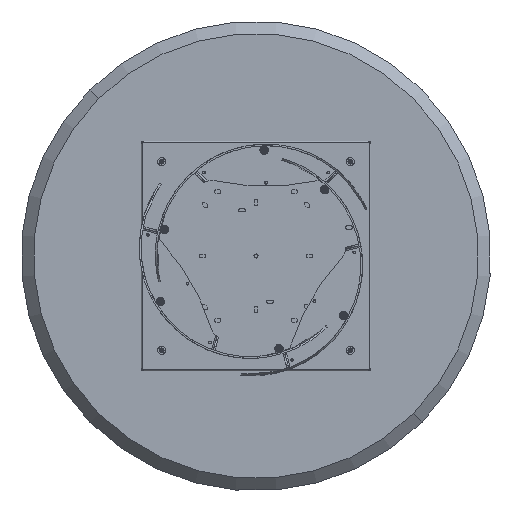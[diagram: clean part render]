
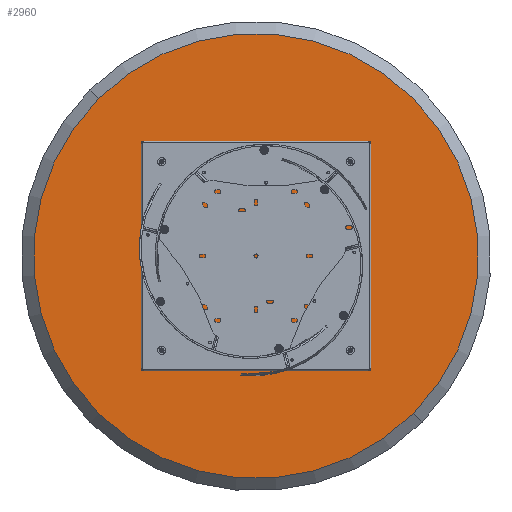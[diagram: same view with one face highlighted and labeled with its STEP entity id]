
A CAD part, front view. The second image highlights one B-rep face of the part: STEP entity #2960.
In plain terms, the highlighted planar face has unit normal (0, -1, 0).
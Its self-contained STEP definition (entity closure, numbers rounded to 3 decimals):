
#81 = ORIENTED_EDGE ( 'NONE', *, *, #8476, .F. ) ;
#471 = VERTEX_POINT ( 'NONE', #18359 ) ;
#804 = ORIENTED_EDGE ( 'NONE', *, *, #20310, .F. ) ;
#819 = EDGE_CURVE ( 'NONE', #11378, #7579, #4959, .T. ) ;
#846 = AXIS2_PLACEMENT_3D ( 'NONE', #11829, #4213, #2337 ) ;
#1141 = FACE_BOUND ( 'NONE', #19767, .T. ) ;
#1204 = AXIS2_PLACEMENT_3D ( 'NONE', #7470, #19912, #8953 ) ;
#1358 = CIRCLE ( 'NONE', #4705, 3.4 ) ;
#1394 = EDGE_LOOP ( 'NONE', ( #7569, #10085 ) ) ;
#1644 = DIRECTION ( 'NONE',  ( 0., 0., -1. ) ) ;
#2000 = DIRECTION ( 'NONE',  ( 0., 0., -1. ) ) ;
#2208 = VERTEX_POINT ( 'NONE', #3191 ) ;
#2211 = AXIS2_PLACEMENT_3D ( 'NONE', #5353, #11936, #3691 ) ;
#2256 = ORIENTED_EDGE ( 'NONE', *, *, #19443, .F. ) ;
#2337 = DIRECTION ( 'NONE',  ( 0., 0., -1. ) ) ;
#2388 = AXIS2_PLACEMENT_3D ( 'NONE', #9559, #15934, #1644 ) ;
#2414 = CIRCLE ( 'NONE', #5079, 3.4 ) ;
#2724 = EDGE_LOOP ( 'NONE', ( #2256, #804 ) ) ;
#2879 = CIRCLE ( 'NONE', #1204, 3.4 ) ;
#2960 = ADVANCED_FACE ( 'NONE', ( #10732, #1141, #9165, #14957, #10038 ), #13985, .T. ) ;
#3191 = CARTESIAN_POINT ( 'NONE',  ( 397.5, 0., -3.4 ) ) ;
#3406 = CARTESIAN_POINT ( 'NONE',  ( 397.5, 0., 3.4 ) ) ;
#3643 = VERTEX_POINT ( 'NONE', #12392 ) ;
#3691 = DIRECTION ( 'NONE',  ( 0., 0., -1. ) ) ;
#3838 = CIRCLE ( 'NONE', #15493, 663. ) ;
#3907 = CARTESIAN_POINT ( 'NONE',  ( -397.5, 0., 0. ) ) ;
#4213 = DIRECTION ( 'NONE',  ( 0., -1., 0. ) ) ;
#4261 = DIRECTION ( 'NONE',  ( 0., -1., 0. ) ) ;
#4673 = AXIS2_PLACEMENT_3D ( 'NONE', #18550, #4261, #16985 ) ;
#4705 = AXIS2_PLACEMENT_3D ( 'NONE', #20366, #17450, #7948 ) ;
#4959 = CIRCLE ( 'NONE', #12285, 663. ) ;
#5079 = AXIS2_PLACEMENT_3D ( 'NONE', #3907, #16641, #8696 ) ;
#5353 = CARTESIAN_POINT ( 'NONE',  ( 0., 0., 0. ) ) ;
#5796 = CARTESIAN_POINT ( 'NONE',  ( -397.5, 0., -3.4 ) ) ;
#6473 = CARTESIAN_POINT ( 'NONE',  ( 0., 0., 400.9 ) ) ;
#7226 = DIRECTION ( 'NONE',  ( 0., 0., -1. ) ) ;
#7470 = CARTESIAN_POINT ( 'NONE',  ( 397.5, 0., 0. ) ) ;
#7569 = ORIENTED_EDGE ( 'NONE', *, *, #10813, .F. ) ;
#7579 = VERTEX_POINT ( 'NONE', #16391 ) ;
#7948 = DIRECTION ( 'NONE',  ( 0., 0., -1. ) ) ;
#8229 = CARTESIAN_POINT ( 'NONE',  ( 0., 0., -394.1 ) ) ;
#8476 = EDGE_CURVE ( 'NONE', #11710, #3643, #15997, .T. ) ;
#8623 = ORIENTED_EDGE ( 'NONE', *, *, #819, .T. ) ;
#8696 = DIRECTION ( 'NONE',  ( 0., 0., -1. ) ) ;
#8794 = AXIS2_PLACEMENT_3D ( 'NONE', #16080, #16176, #2000 ) ;
#8798 = VERTEX_POINT ( 'NONE', #3406 ) ;
#8883 = VERTEX_POINT ( 'NONE', #5796 ) ;
#8898 = CARTESIAN_POINT ( 'NONE',  ( 0., 0., 0. ) ) ;
#8953 = DIRECTION ( 'NONE',  ( 0., 0., -1. ) ) ;
#9057 = AXIS2_PLACEMENT_3D ( 'NONE', #17273, #9225, #10689 ) ;
#9165 = FACE_BOUND ( 'NONE', #1394, .T. ) ;
#9225 = DIRECTION ( 'NONE',  ( 0., -1., 0. ) ) ;
#9460 = CIRCLE ( 'NONE', #8794, 3.4 ) ;
#9537 = EDGE_CURVE ( 'NONE', #3643, #11710, #1358, .T. ) ;
#9559 = CARTESIAN_POINT ( 'NONE',  ( -397.5, 0., 0. ) ) ;
#9671 = DIRECTION ( 'NONE',  ( 0., 0., -1. ) ) ;
#9705 = VERTEX_POINT ( 'NONE', #6473 ) ;
#10038 = FACE_BOUND ( 'NONE', #12334, .T. ) ;
#10085 = ORIENTED_EDGE ( 'NONE', *, *, #13079, .F. ) ;
#10246 = ORIENTED_EDGE ( 'NONE', *, *, #9537, .F. ) ;
#10311 = CARTESIAN_POINT ( 'NONE',  ( 0., 0., 394.1 ) ) ;
#10689 = DIRECTION ( 'NONE',  ( 0., 0., -1. ) ) ;
#10732 = FACE_OUTER_BOUND ( 'NONE', #13766, .T. ) ;
#10813 = EDGE_CURVE ( 'NONE', #8883, #471, #20370, .T. ) ;
#10963 = ORIENTED_EDGE ( 'NONE', *, *, #20348, .T. ) ;
#11024 = EDGE_CURVE ( 'NONE', #9705, #15663, #20398, .T. ) ;
#11093 = CARTESIAN_POINT ( 'NONE',  ( 0., 0., -663. ) ) ;
#11378 = VERTEX_POINT ( 'NONE', #11093 ) ;
#11710 = VERTEX_POINT ( 'NONE', #8229 ) ;
#11829 = CARTESIAN_POINT ( 'NONE',  ( 397.5, 0., 0. ) ) ;
#11936 = DIRECTION ( 'NONE',  ( 0., -1., 0. ) ) ;
#12285 = AXIS2_PLACEMENT_3D ( 'NONE', #19167, #19283, #9671 ) ;
#12334 = EDGE_LOOP ( 'NONE', ( #17253, #18571 ) ) ;
#12392 = CARTESIAN_POINT ( 'NONE',  ( 0., 0., -400.9 ) ) ;
#13079 = EDGE_CURVE ( 'NONE', #471, #8883, #2414, .T. ) ;
#13766 = EDGE_LOOP ( 'NONE', ( #10963, #8623 ) ) ;
#13985 = PLANE ( 'NONE',  #2211 ) ;
#14957 = FACE_BOUND ( 'NONE', #2724, .T. ) ;
#15239 = EDGE_CURVE ( 'NONE', #15663, #9705, #9460, .T. ) ;
#15270 = DIRECTION ( 'NONE',  ( 0., -1., 0. ) ) ;
#15493 = AXIS2_PLACEMENT_3D ( 'NONE', #8898, #15270, #7226 ) ;
#15663 = VERTEX_POINT ( 'NONE', #10311 ) ;
#15934 = DIRECTION ( 'NONE',  ( 0., -1., 0. ) ) ;
#15997 = CIRCLE ( 'NONE', #4673, 3.4 ) ;
#16080 = CARTESIAN_POINT ( 'NONE',  ( 0., 0., 397.5 ) ) ;
#16176 = DIRECTION ( 'NONE',  ( 0., -1., 0. ) ) ;
#16391 = CARTESIAN_POINT ( 'NONE',  ( 0., 0., 663. ) ) ;
#16641 = DIRECTION ( 'NONE',  ( 0., -1., 0. ) ) ;
#16985 = DIRECTION ( 'NONE',  ( 0., 0., -1. ) ) ;
#17253 = ORIENTED_EDGE ( 'NONE', *, *, #15239, .F. ) ;
#17273 = CARTESIAN_POINT ( 'NONE',  ( 0., 0., 397.5 ) ) ;
#17450 = DIRECTION ( 'NONE',  ( 0., -1., 0. ) ) ;
#17840 = CIRCLE ( 'NONE', #846, 3.4 ) ;
#18359 = CARTESIAN_POINT ( 'NONE',  ( -397.5, 0., 3.4 ) ) ;
#18550 = CARTESIAN_POINT ( 'NONE',  ( 0., 0., -397.5 ) ) ;
#18571 = ORIENTED_EDGE ( 'NONE', *, *, #11024, .F. ) ;
#19167 = CARTESIAN_POINT ( 'NONE',  ( 0., 0., 0. ) ) ;
#19283 = DIRECTION ( 'NONE',  ( 0., -1., 0. ) ) ;
#19443 = EDGE_CURVE ( 'NONE', #2208, #8798, #2879, .T. ) ;
#19767 = EDGE_LOOP ( 'NONE', ( #10246, #81 ) ) ;
#19912 = DIRECTION ( 'NONE',  ( 0., -1., 0. ) ) ;
#20310 = EDGE_CURVE ( 'NONE', #8798, #2208, #17840, .T. ) ;
#20348 = EDGE_CURVE ( 'NONE', #7579, #11378, #3838, .T. ) ;
#20366 = CARTESIAN_POINT ( 'NONE',  ( 0., 0., -397.5 ) ) ;
#20370 = CIRCLE ( 'NONE', #2388, 3.4 ) ;
#20398 = CIRCLE ( 'NONE', #9057, 3.4 ) ;
